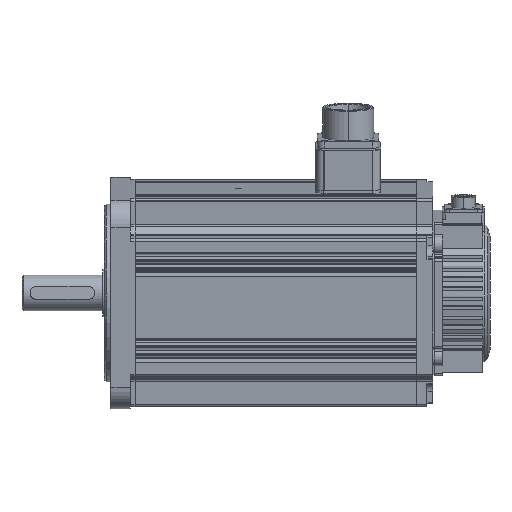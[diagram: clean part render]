
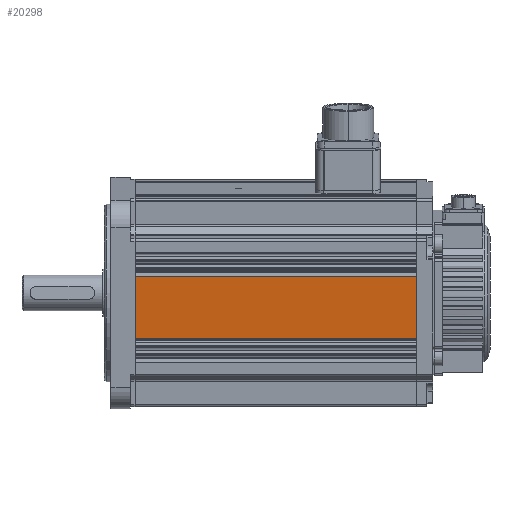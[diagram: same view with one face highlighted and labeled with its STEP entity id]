
A CAD part, front view. The second image highlights one B-rep face of the part: STEP entity #20298.
In plain terms, the highlighted planar face has unit normal (0, -0.99, -0.142).
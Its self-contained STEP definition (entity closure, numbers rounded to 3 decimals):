
#530 = VERTEX_POINT ( 'NONE', #9290 ) ;
#810 = DIRECTION ( 'NONE',  ( 0., 0.99, 0.142 ) ) ;
#1128 = VERTEX_POINT ( 'NONE', #10998 ) ;
#2703 = DIRECTION ( 'NONE',  ( 1., 0., 0. ) ) ;
#4017 = ORIENTED_EDGE ( 'NONE', *, *, #43953, .F. ) ;
#5517 = LINE ( 'NONE', #47211, #41768 ) ;
#5822 = VERTEX_POINT ( 'NONE', #11685 ) ;
#6834 = LINE ( 'NONE', #53529, #51131 ) ;
#7004 = EDGE_CURVE ( 'NONE', #530, #5822, #6834, .T. ) ;
#9290 = CARTESIAN_POINT ( 'NONE',  ( 9.836, -143.638, 9.883 ) ) ;
#9438 = DIRECTION ( 'NONE',  ( 0., 0.142, -0.99 ) ) ;
#10565 = EDGE_CURVE ( 'NONE', #53617, #5822, #50512, .T. ) ;
#10867 = VECTOR ( 'NONE', #18310, 1000. ) ;
#10998 = CARTESIAN_POINT ( 'NONE',  ( 9.836, -138.156, -28.339 ) ) ;
#11685 = CARTESIAN_POINT ( 'NONE',  ( 183.836, -143.638, 9.883 ) ) ;
#12765 = ORIENTED_EDGE ( 'NONE', *, *, #7004, .F. ) ;
#16263 = VECTOR ( 'NONE', #47995, 1000. ) ;
#18310 = DIRECTION ( 'NONE',  ( 0., -0.142, 0.99 ) ) ;
#19313 = CARTESIAN_POINT ( 'NONE',  ( 183.836, -143.638, 9.883 ) ) ;
#20298 = ADVANCED_FACE ( 'NONE', ( #49062 ), #26130, .F. ) ;
#24537 = CARTESIAN_POINT ( 'NONE',  ( 183.836, -138.156, -28.339 ) ) ;
#26130 = PLANE ( 'NONE',  #40551 ) ;
#32348 = EDGE_CURVE ( 'NONE', #53617, #1128, #5517, .T. ) ;
#34460 = DIRECTION ( 'NONE',  ( -1., 0., 0. ) ) ;
#40387 = LINE ( 'NONE', #44202, #10867 ) ;
#40551 = AXIS2_PLACEMENT_3D ( 'NONE', #47869, #810, #9438 ) ;
#41534 = ORIENTED_EDGE ( 'NONE', *, *, #10565, .T. ) ;
#41768 = VECTOR ( 'NONE', #34460, 1000. ) ;
#43953 = EDGE_CURVE ( 'NONE', #1128, #530, #40387, .T. ) ;
#44202 = CARTESIAN_POINT ( 'NONE',  ( 9.836, -150.125, 55.113 ) ) ;
#47211 = CARTESIAN_POINT ( 'NONE',  ( 96.836, -138.156, -28.339 ) ) ;
#47869 = CARTESIAN_POINT ( 'NONE',  ( 183.836, -143.638, 9.883 ) ) ;
#47995 = DIRECTION ( 'NONE',  ( 0., -0.142, 0.99 ) ) ;
#49062 = FACE_OUTER_BOUND ( 'NONE', #51867, .T. ) ;
#50512 = LINE ( 'NONE', #19313, #16263 ) ;
#51131 = VECTOR ( 'NONE', #2703, 1000. ) ;
#51867 = EDGE_LOOP ( 'NONE', ( #53509, #41534, #12765, #4017 ) ) ;
#53509 = ORIENTED_EDGE ( 'NONE', *, *, #32348, .F. ) ;
#53529 = CARTESIAN_POINT ( 'NONE',  ( 96.836, -143.638, 9.883 ) ) ;
#53617 = VERTEX_POINT ( 'NONE', #24537 ) ;
